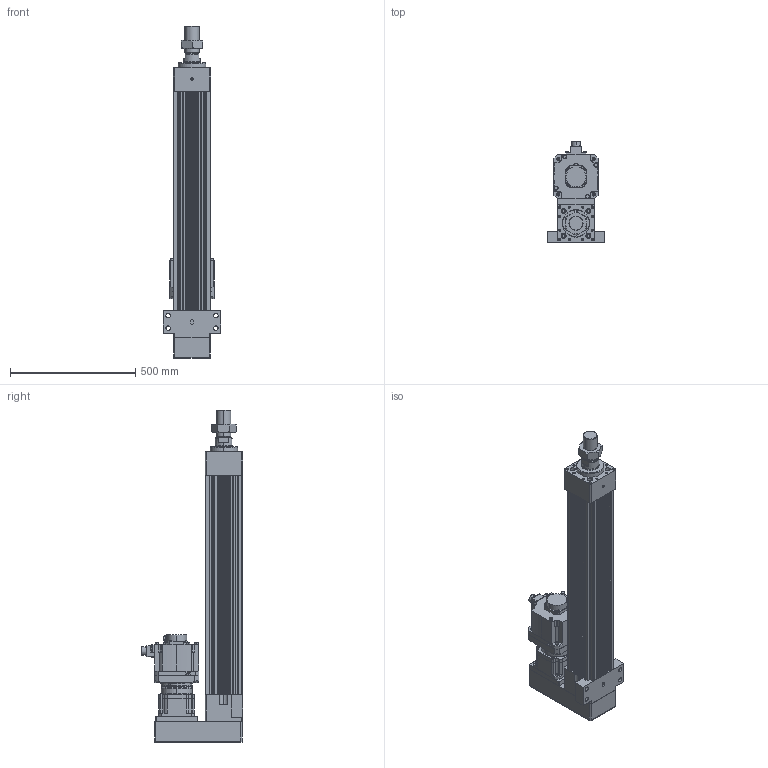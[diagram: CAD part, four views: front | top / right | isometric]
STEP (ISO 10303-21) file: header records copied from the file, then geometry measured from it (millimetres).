
FILE_DESCRIPTION (( 'STEP AP203' ), '1' );
FILE_NAME ('HES150NS(HS)-P600-W035G00-M-FFC.STEP', '2023-01-31T09:54:22', ( 'tms' ), ( '' ), 'SwSTEP 2.0', 'SolidWorks 2013', '' );
FILE_SCHEMA (( 'CONFIG_CONTROL_DESIGN' ));
Length unit declared in the file: millimetre
Products named in the file (9): HG-SR352; P1301500001; P0403500801; HES150NS(HS)-P600-W035G00-M-FFC; HES150-P600-G142-FFC; AB1421; HES150 ROD M ST600; M56X2.0P; AB142-003[HG-SR352]
Assembly tree (8 placements, depth 3):
  HES150NS(HS)-P600-W035G00-M-FFC
    HES150-P600-G142-FFC
    HES150 ROD M ST600
    M56X2.0P
    AB142-003[HG-SR352]
      AB1421
      P1301500001
      P0403500801
    HG-SR352
Bounding box: 230 x 403.85 x 1326 mm (x, y, z)
Volume: 21375943.9 mm3; surface area: 2173124.8 mm2
Topology: 4 solids, 18 shells, 1470 faces, 3831 edges, 2471 vertices
Faces by surface type: cylinder 693, plane 529, cone 166, bspline 76, torus 6
Entity records: 53945 total; most frequent: CARTESIAN_POINT 16549, DIRECTION 7839, ORIENTED_EDGE 7520, EDGE_CURVE 3782, AXIS2_PLACEMENT_3D 2986, VERTEX_POINT 2471, LINE 1867, VECTOR 1867
